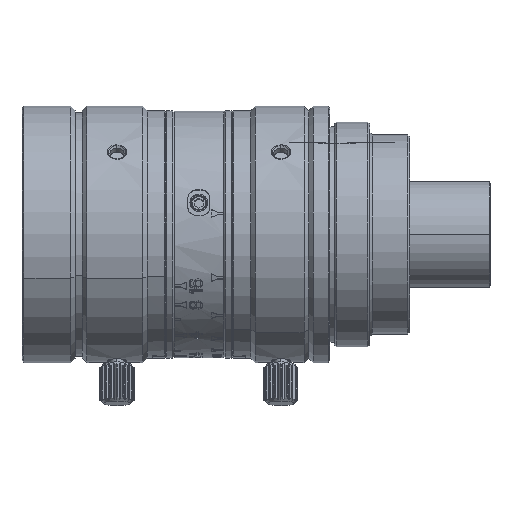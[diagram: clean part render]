
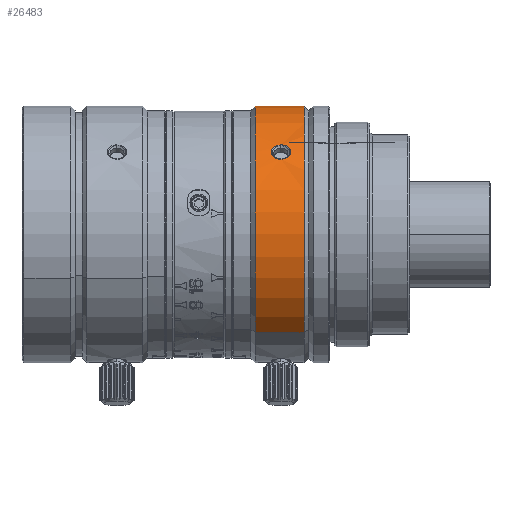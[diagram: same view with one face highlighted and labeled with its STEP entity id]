
A CAD part, top view. The second image highlights one B-rep face of the part: STEP entity #26483.
In plain terms, the highlighted cylindrical face has radius 14.5 mm (diameter 29 mm), a partial arc.
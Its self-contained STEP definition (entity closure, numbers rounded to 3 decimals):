
#6687=CARTESIAN_POINT('',(-26.516,0.,0.));
#6688=DIRECTION('',(1.,0.,0.));
#6689=DIRECTION('',(0.,0.766,-0.643));
#6690=AXIS2_PLACEMENT_3D('',#6687,#6688,#6689);
#6706=DIRECTION('',(-1.,0.,0.));
#6707=VECTOR('',#6706,5.52);
#6708=CARTESIAN_POINT('',(-20.996,11.108,-9.32));
#6709=LINE('',#6708,#6707);
#6755=DIRECTION('',(-1.,0.,0.));
#6756=VECTOR('',#6755,5.52);
#6757=CARTESIAN_POINT('',(-20.996,-11.108,9.32));
#6758=LINE('',#6757,#6756);
#6759=CARTESIAN_POINT('',(-23.616,10.108,10.396));
#6760=CARTESIAN_POINT('',(-23.726,10.108,10.396));
#6761=CARTESIAN_POINT('',(-23.935,10.087,10.417));
#6762=CARTESIAN_POINT('',(-24.229,9.991,10.509));
#6763=CARTESIAN_POINT('',(-24.468,9.841,10.65));
#6764=CARTESIAN_POINT('',(-24.636,9.649,10.825));
#6765=CARTESIAN_POINT('',(-24.721,9.429,11.017));
#6766=CARTESIAN_POINT('',(-24.718,9.199,11.21));
#6767=CARTESIAN_POINT('',(-24.63,8.976,11.389));
#6768=CARTESIAN_POINT('',(-24.463,8.775,11.544));
#6769=CARTESIAN_POINT('',(-24.226,8.613,11.665));
#6770=CARTESIAN_POINT('',(-23.935,8.507,11.742));
#6771=CARTESIAN_POINT('',(-23.726,8.483,11.76));
#6772=CARTESIAN_POINT('',(-23.616,8.483,11.76));
#6774=CARTESIAN_POINT('',(-23.616,8.483,11.76));
#6775=CARTESIAN_POINT('',(-23.506,8.483,11.76));
#6776=CARTESIAN_POINT('',(-23.297,8.507,11.742));
#6777=CARTESIAN_POINT('',(-23.003,8.614,11.664));
#6778=CARTESIAN_POINT('',(-22.763,8.779,11.541));
#6779=CARTESIAN_POINT('',(-22.595,8.985,11.382));
#6780=CARTESIAN_POINT('',(-22.511,9.212,11.199));
#6781=CARTESIAN_POINT('',(-22.514,9.442,11.006));
#6782=CARTESIAN_POINT('',(-22.601,9.657,10.817));
#6783=CARTESIAN_POINT('',(-22.769,9.845,10.646));
#6784=CARTESIAN_POINT('',(-23.005,9.992,10.508));
#6785=CARTESIAN_POINT('',(-23.297,10.086,10.417));
#6786=CARTESIAN_POINT('',(-23.506,10.108,10.396));
#6787=CARTESIAN_POINT('',(-23.616,10.108,10.396));
#6793=CARTESIAN_POINT('',(-20.996,0.,0.));
#6794=DIRECTION('',(-1.,0.,0.));
#6795=DIRECTION('',(0.,-0.766,0.643));
#6796=AXIS2_PLACEMENT_3D('',#6793,#6794,#6795);
#21838=CARTESIAN_POINT('',(-26.516,-11.108,9.32));
#21839=VERTEX_POINT('',#21838);
#21840=CARTESIAN_POINT('',(-26.516,11.108,-9.32));
#21841=VERTEX_POINT('',#21840);
#21842=CARTESIAN_POINT('',(-20.996,-11.108,9.32));
#21843=VERTEX_POINT('',#21842);
#21844=CARTESIAN_POINT('',(-20.996,11.108,-9.32));
#21845=VERTEX_POINT('',#21844);
#21850=VERTEX_POINT('',#6759);
#21851=VERTEX_POINT('',#6772);
#26465=CARTESIAN_POINT('',(-14.316,0.,0.));
#26466=DIRECTION('',(-1.,0.,0.));
#26467=DIRECTION('',(0.,0.766,-0.643));
#26468=AXIS2_PLACEMENT_3D('',#26465,#26466,#26467);
#26469=CYLINDRICAL_SURFACE('',#26468,14.5);
#26470=ORIENTED_EDGE('',*,*,#26443,.T.);
#26471=ORIENTED_EDGE('',*,*,#26420,.F.);
#26472=ORIENTED_EDGE('',*,*,#26447,.F.);
#26474=ORIENTED_EDGE('',*,*,#26473,.F.);
#26475=EDGE_LOOP('',(#26470,#26471,#26472,#26474));
#26476=FACE_OUTER_BOUND('',#26475,.F.);
#26478=ORIENTED_EDGE('',*,*,#26477,.T.);
#26480=ORIENTED_EDGE('',*,*,#26479,.T.);
#26481=EDGE_LOOP('',(#26478,#26480));
#26482=FACE_BOUND('',#26481,.F.);
#26483=ADVANCED_FACE('',(#26476,#26482),#26469,.T.);
#6691=CIRCLE('',#6690,14.5);
#6773=B_SPLINE_CURVE_WITH_KNOTS('',3,(#6759,#6760,#6761,#6762,#6763,#6764,#6765,
#6766,#6767,#6768,#6769,#6770,#6771,#6772),.UNSPECIFIED.,.F.,.F.,(4,1,1,1,1,1,1,
1,1,1,1,4),(0.,0.091,0.182,0.273,
0.364,0.455,0.545,0.636,
0.727,0.818,0.909,1.),.UNSPECIFIED.);
#6788=B_SPLINE_CURVE_WITH_KNOTS('',3,(#6774,#6775,#6776,#6777,#6778,#6779,#6780,
#6781,#6782,#6783,#6784,#6785,#6786,#6787),.UNSPECIFIED.,.F.,.F.,(4,1,1,1,1,1,1,
1,1,1,1,4),(0.,0.091,0.182,0.273,
0.364,0.455,0.545,0.636,
0.727,0.818,0.909,1.),.UNSPECIFIED.);
#6797=CIRCLE('',#6796,14.5);
#26420=EDGE_CURVE('',#21841,#21839,#6691,.T.);
#26443=EDGE_CURVE('',#21843,#21839,#6758,.T.);
#26447=EDGE_CURVE('',#21845,#21841,#6709,.T.);
#26473=EDGE_CURVE('',#21843,#21845,#6797,.T.);
#26477=EDGE_CURVE('',#21850,#21851,#6773,.T.);
#26479=EDGE_CURVE('',#21851,#21850,#6788,.T.);
